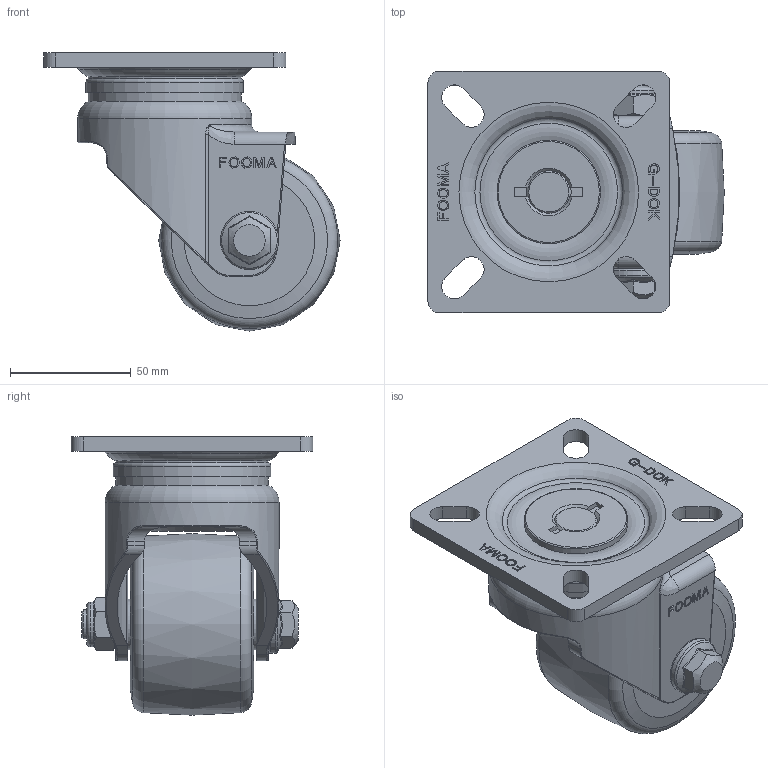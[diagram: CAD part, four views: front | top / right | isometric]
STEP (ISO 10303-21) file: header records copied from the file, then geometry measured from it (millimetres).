
FILE_DESCRIPTION(/* description */ (''),/* implementation_level */ '2;1');
FILE_NAME(/* name */ 'Z:\1.기술연구소\1.제품도면정리\11.개발중도면\AGV-CASTER\AGV CASTER GAPL, GAPH, GAPHD 75_제품도면\홈페이지용 3D(일반배포용)\GAPH-75-ASF-HUD.stp',/* time_stamp */ '2019-08-22T12:36:40+09:00',/* author */ ('장용하'),/* organization */ (''),/* preprocessor_version */ 'ST-DEVELOPER v16.13',/* originating_system */ 'Autodesk Inventor 2018',/* authorisation */ '');
FILE_SCHEMA (('AUTOMOTIVE_DESIGN { 1 0 10303 214 3 1 1 }'));
Length unit declared in the file: millimetre
Products named in the file (1): GAPH-75-ASF-HUD
Bounding box: 122.5 x 100 x 115.04 mm (x, y, z)
Volume: 404528.6 mm3; surface area: 69386 mm2
Topology: 1 solids, 1 shells, 896 faces, 2499 edges, 1642 vertices
Faces by surface type: plane 774, cylinder 54, torus 26, bspline 25, cone 16, sphere 1
Full cylindrical faces by diameter (mm): 12 x1, 18.5 x1, 21 x2, 24 x1, 41 x1, 42.8 x1, 44 x1, 48.961 x1, 62 x1, 63.14 x2, 65.14 x1, 72 x1
Entity records: 31106 total; most frequent: CARTESIAN_POINT 7502, ORIENTED_EDGE 4890, DIRECTION 4260, EDGE_CURVE 2445, LINE 2192, VECTOR 2192, VERTEX_POINT 1633, AXIS2_PLACEMENT_3D 1034
